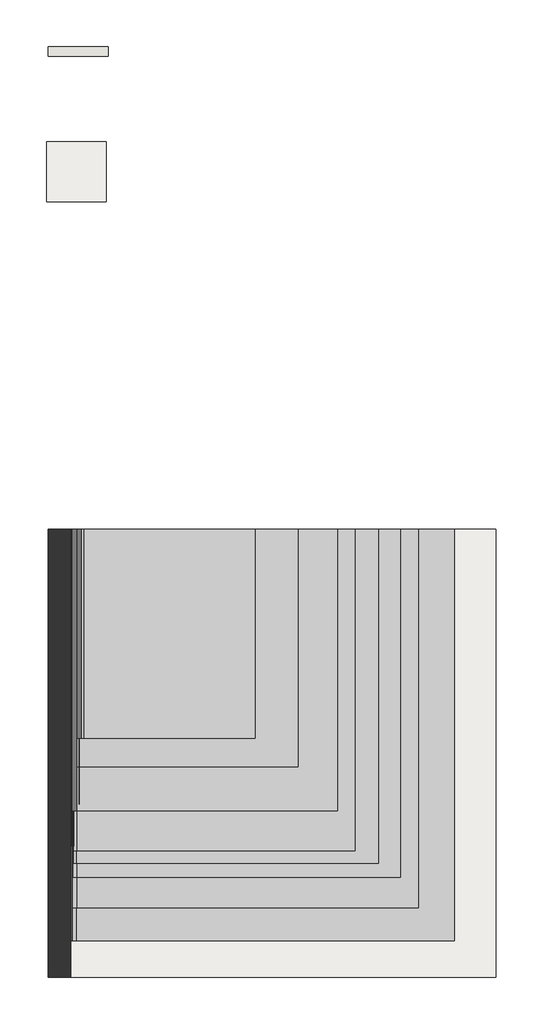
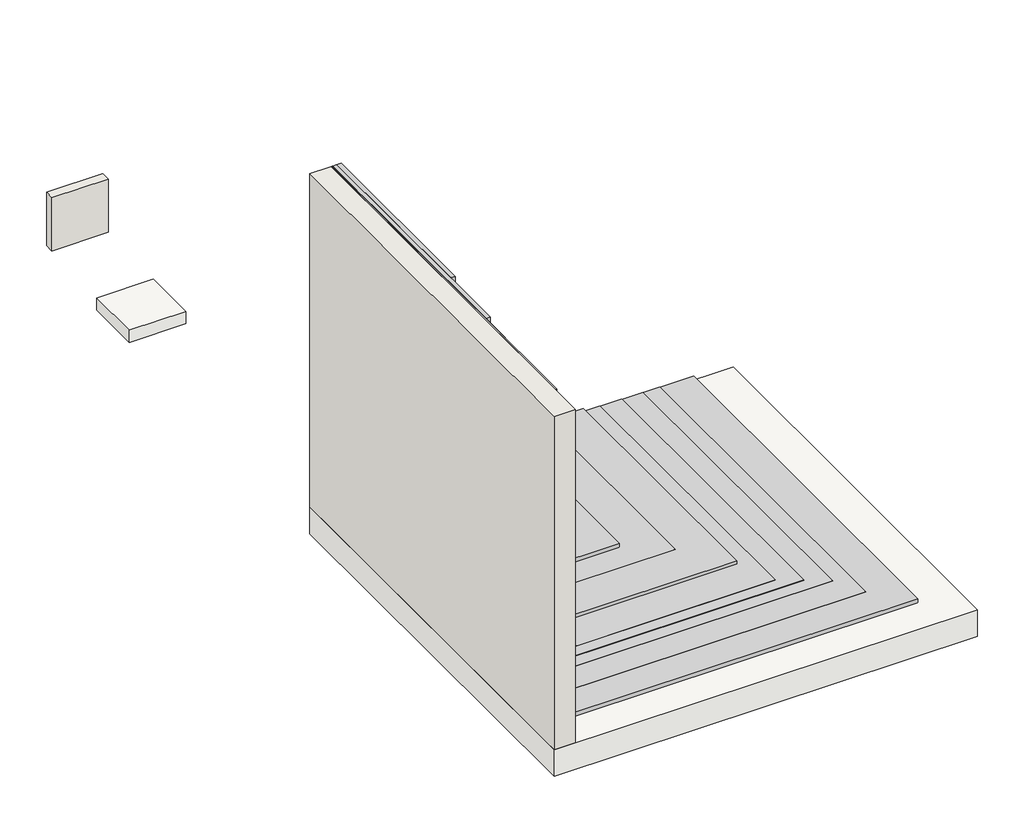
# One storey: 2 slabs, 2 walls, 1 proxy.
"""IFC4 building model written with IfcOpenShell, lengths in millimetres."""

import ifcopenshell
import ifcopenshell.guid

model = None  # the IFC model being written
_history = None  # IfcOwnerHistory: only IFC2X3 demands one
_inside = {}  # id of a spatial element -> (the spatial element, [elements in it])
_under = {}  # id of a project, library or spatial element -> (it, [spatial elements below it])
_declared = {}  # id of a project -> (the project, [libraries it declares])
_typed = {}  # id of a type object -> (the type object, [elements of that type])
_made_of = {}  # id of a material, layer set ... -> (it, [elements and type objects made of it])


def new_model(schema):
    """Start an empty IFC model of exactly this schema.

    Asked for "IFC4X3", IfcOpenShell would pick the latest addendum, in which some entities
    have other attributes; the version numbers below select the first issue.
    IFC2X3 requires an IfcOwnerHistory on every rooted entity: one is made here for all.
    """
    global model, _history
    if schema == "IFC4X3":
        model = ifcopenshell.file(schema_version=(4, 3, 0, 0))
    else:
        model = ifcopenshell.file(schema=schema)
    _inside.clear()
    _under.clear()
    _declared.clear()
    _typed.clear()
    _made_of.clear()
    _history = None
    if model.schema == "IFC2X3":
        org = make("IfcOrganization", Name="unknown")
        user = make(
            "IfcPersonAndOrganization",
            ThePerson=make("IfcPerson", FamilyName="unknown"),
            TheOrganization=org,
        )
        app = make(
            "IfcApplication",
            ApplicationDeveloper=org,
            Version="unknown",
            ApplicationFullName="unknown",
            ApplicationIdentifier="unknown",
        )
        _history = make(
            "IfcOwnerHistory",
            OwningUser=user,
            OwningApplication=app,
            ChangeAction="ADDED",
            CreationDate=0,
        )
    return model


def make(cls, **values):
    """One entity of the class cls with the attributes given. An attribute that is None is left unset."""
    return model.create_entity(
        cls, **{name: value for name, value in values.items() if value is not None}
    )


def rooted(cls, **values):
    """An entity with a GlobalId (a new one), such as an element, a storey or a relation."""
    return make(cls, GlobalId=ifcopenshell.guid.new(), OwnerHistory=_history, **values)


def si_unit(unit_type, name, prefix=None):
    """IfcSIUnit, for example si_unit("LENGTHUNIT", "METRE", prefix="MILLI")."""
    return make("IfcSIUnit", UnitType=unit_type, Prefix=prefix, Name=name)


def assignment(units):
    """IfcUnitAssignment: the units of a project."""
    return None if units is None else make("IfcUnitAssignment", Units=units)


def point(xyz):
    """IfcCartesianPoint."""
    return None if xyz is None else make("IfcCartesianPoint", Coordinates=xyz)


def direction(xyz):
    """IfcDirection."""
    return None if xyz is None else make("IfcDirection", DirectionRatios=xyz)


def frame(location, z_axis=None, x_axis=None):
    """IfcAxis2Placement3D, a coordinate frame: its origin and axes. An axis left out is left unset."""
    return make(
        "IfcAxis2Placement3D",
        Location=point(location),
        Axis=direction(z_axis),
        RefDirection=direction(x_axis),
    )


def frame_2d(location, x_axis=None):
    """IfcAxis2Placement2D, a coordinate frame in the plane: its origin and x axis."""
    return make(
        "IfcAxis2Placement2D", Location=point(location), RefDirection=direction(x_axis)
    )


def origin():
    """The frame at (0, 0, 0) with its axes left unset."""
    return frame((0.0, 0.0, 0.0))


def place(relative_to, where):
    """IfcLocalPlacement: puts the frame where relative to a parent placement (None: the world)."""
    return make(
        "IfcLocalPlacement", PlacementRelTo=relative_to, RelativePlacement=where
    )


def context(
    kind, dimensions, precision=None, world=None, true_north=None, identifier=None
):
    """IfcGeometricRepresentationContext, for example the 3D "Model" context."""
    return make(
        "IfcGeometricRepresentationContext",
        ContextIdentifier=identifier,
        ContextType=kind,
        CoordinateSpaceDimension=dimensions,
        Precision=precision,
        WorldCoordinateSystem=world,
        TrueNorth=true_north,
    )


def project(units=None, contexts=None):
    """IfcProject with its units and contexts."""
    return rooted(
        "IfcProject",
        Name="project",
        RepresentationContexts=contexts,
        UnitsInContext=assignment(units),
    )


def spatial(cls, under=None, at=None, **own):
    """A site, building, storey or space (cls), placed at a placement, below another one or the project."""
    s = rooted(cls, ObjectPlacement=at, **own)
    if under is not None:
        _under.setdefault(under.id(), (under, []))[1].append(s)
    return s


def polyline(points):
    """IfcPolyline through the points."""
    return make("IfcPolyline", Points=[point(p) for p in points])


def circle_curve(where, radius):
    """IfcCircle in the frame where."""
    return make("IfcCircle", Position=where, Radius=radius)


def trimmed(basis, trim1, trim2, sense, master):
    """IfcTrimmedCurve: the piece of a basis curve between two trims."""
    return make(
        "IfcTrimmedCurve",
        BasisCurve=basis,
        Trim1=trim1,
        Trim2=trim2,
        SenseAgreement=sense,
        MasterRepresentation=master,
    )


def segment(curve, same_sense, transition):
    """IfcCompositeCurveSegment."""
    return make(
        "IfcCompositeCurveSegment",
        Transition=transition,
        SameSense=same_sense,
        ParentCurve=curve,
    )


def composite_curve(segments, self_intersect=None):
    """IfcCompositeCurve: segments joined end to end."""
    return make("IfcCompositeCurve", Segments=segments, SelfIntersect=self_intersect)


def outline(outer, holes=None, kind="AREA"):
    """IfcArbitraryClosedProfileDef: a profile drawn as a closed curve; with holes, ...WithVoids."""
    if holes is None:
        return make("IfcArbitraryClosedProfileDef", ProfileType=kind, OuterCurve=outer)
    return make(
        "IfcArbitraryProfileDefWithVoids",
        ProfileType=kind,
        OuterCurve=outer,
        InnerCurves=holes,
    )


def extrude(swept, where, along, depth):
    """IfcExtrudedAreaSolid: the profile swept, set in the frame where, extruded along a direction by depth."""
    return make(
        "IfcExtrudedAreaSolid",
        SweptArea=swept,
        Position=where,
        ExtrudedDirection=direction(along),
        Depth=depth,
    )


def shape(context_of_items, identifier, shape_type, items):
    """IfcShapeRepresentation: the items that make up one representation, for example the "Body"."""
    return make(
        "IfcShapeRepresentation",
        ContextOfItems=context_of_items,
        RepresentationIdentifier=identifier,
        RepresentationType=shape_type,
        Items=items,
    )


def source(mapping_origin, context_of_items, identifier, shape_type, items):
    """IfcRepresentationMap: a shape defined once, which mapped items show again and again."""
    return make(
        "IfcRepresentationMap",
        MappingOrigin=mapping_origin,
        MappedRepresentation=shape(context_of_items, identifier, shape_type, items),
    )


def transform(
    local_origin,
    x_axis=None,
    y_axis=None,
    z_axis=None,
    scale=None,
    scale2=None,
    scale3=None,
    uniform=True,
):
    """IfcCartesianTransformationOperator3D, or its non-uniform kind. x_axis, y_axis, z_axis: its Axis1, 2, 3."""
    if uniform:
        return make(
            "IfcCartesianTransformationOperator3D",
            Axis1=direction(x_axis),
            Axis2=direction(y_axis),
            LocalOrigin=point(local_origin),
            Scale=scale,
            Axis3=direction(z_axis),
        )
    return make(
        "IfcCartesianTransformationOperator3DnonUniform",
        Axis1=direction(x_axis),
        Axis2=direction(y_axis),
        LocalOrigin=point(local_origin),
        Scale=scale,
        Axis3=direction(z_axis),
        Scale2=scale2,
        Scale3=scale3,
    )


def mapped(mapping_source, mapping_target):
    """IfcMappedItem: shows the shape of a source again, moved by a transform."""
    return make(
        "IfcMappedItem", MappingSource=mapping_source, MappingTarget=mapping_target
    )


def made_of(thing, what):
    """Note that an element or type object is made of a material, layer set ...; save() writes the relation."""
    if what is not None:
        _made_of.setdefault(what.id(), (what, []))[1].append(thing)
    return thing


def element(
    cls,
    number,
    at=None,
    inside=None,
    cuts=None,
    type_object=None,
    material=None,
    context=None,
    identifier="Body",
    shape_type=None,
    held_by="IfcProductDefinitionShape",
    body=None,
    shapes=None,
    **own,
):
    """One element of the class cls, such as IfcWall. Its Tag is "e" and its number.

    at: its placement. inside: the storey or other place that contains it. cuts: it is an
    opening in that element (IfcRelVoidsElement). A single representation is given by context,
    identifier, shape_type and body (its items); several are given by shapes. held_by: the class
    of the entity that holds the representations. save() writes the other relations.
    """
    e = rooted(cls, Tag="e%d" % number, ObjectPlacement=at, **own)
    if body is not None:
        shapes = [shape(context, identifier, shape_type, body)]
    if shapes is not None:
        e.Representation = make(held_by, Representations=shapes)
    if inside is not None:
        _inside.setdefault(inside.id(), (inside, []))[1].append(e)
    if cuts is not None:
        rooted(
            "IfcRelVoidsElement", RelatingBuildingElement=cuts, RelatedOpeningElement=e
        )
    if type_object is not None:
        _typed.setdefault(type_object.id(), (type_object, []))[1].append(e)
    return made_of(e, material)


def aggregate(whole, parts):
    """IfcRelAggregates: a whole, such as a stair, and the parts it consists of."""
    return rooted("IfcRelAggregates", RelatingObject=whole, RelatedObjects=parts)


def save(model, path):
    """Write the relations noted so far, then the file.

    IfcRelAggregates (storeys below a building ...), IfcRelContainedInSpatialStructure (elements
    in a storey), IfcRelDefinesByType, IfcRelAssociatesMaterial and IfcRelDeclares: one each for
    every whole, place, type object, material and project.
    """
    for whole, parts in _under.values():
        aggregate(whole, parts)
    for where, things in _inside.values():
        rooted(
            "IfcRelContainedInSpatialStructure",
            RelatedElements=things,
            RelatingStructure=where,
        )
    for kind, things in _typed.values():
        rooted("IfcRelDefinesByType", RelatedObjects=things, RelatingType=kind)
    for what, things in _made_of.values():
        rooted("IfcRelAssociatesMaterial", RelatedObjects=things, RelatingMaterial=what)
    for by, libraries in _declared.values():
        rooted("IfcRelDeclares", RelatingContext=by, RelatedDefinitions=libraries)
    model.write(path)


def generic_models_7824ece7(model_context):
    return source(origin(), model_context, "Body", "SweptSolid", [
        extrude(outline(composite_curve([segment(trimmed(circle_curve(frame_2d((57.476202, -311.9704105)), 24.0), [point((56.7394814, -335.9591004))], [point((33.5018705, -313.0801074))], False, "CARTESIAN"), True, "CONTINUOUS"), segment(polyline([(33.5018705, -313.0801074), (33.5018705, 1553.7831106), (34.5018705, 1553.7831106), (34.5018705, -313.0567301)]), True, "CONTINUOUS"), segment(trimmed(circle_curve(frame_2d((57.476202, -311.9704105)), 23.0), [point((34.5018705, -313.0567301))], [point((56.7549967, -334.9591004))], True, "CARTESIAN"), True, "CONTINUOUS"), segment(polyline([(56.7549967, -334.9591004), (162.5018705, -334.9591004), (162.5018705, -335.9591004), (56.7394814, -335.9591004)]), True, "CONTINUOUS")], self_intersect=False)), frame((0.0, -2004.9615793, 0.0), z_axis=(0.0, 1.0, 0.0), x_axis=(0.0, 0.0, 1.0)), (0.0, 0.0, 1.0), 2150.8315988),
        extrude(outline(composite_curve([segment(trimmed(circle_curve(frame_2d((57.476202, -311.9704105)), 29.0), [point((56.6663512, -340.9591004))], [point((28.5018705, -313.1902924))], False, "CARTESIAN"), True, "CONTINUOUS"), segment(polyline([(28.5018705, -313.1902924), (28.5018705, 1858.7456845), (29.5018705, 1858.7456845), (29.5018705, -313.1690659)]), True, "CONTINUOUS"), segment(trimmed(circle_curve(frame_2d((57.476202, -311.9704105)), 28.0), [point((29.5018705, -313.1690659))], [point((56.6804394, -339.9591004))], True, "CARTESIAN"), True, "CONTINUOUS"), segment(polyline([(56.6804394, -339.9591004), (166.5018705, -339.9591004), (166.5018705, -340.9591004), (56.6663512, -340.9591004)]), True, "CONTINUOUS")], self_intersect=False)), frame((0.0, -2183.8835924, 0.0), z_axis=(0.0, 1.0, 0.0), x_axis=(0.0, 0.0, 1.0)), (0.0, 0.0, 1.0), 2329.7536119),
        extrude(outline(composite_curve([segment(polyline([(58.9105863, -310.9591004), (2497.4652065, -310.9591004), (2497.4652065, -340.9704105), (167.5018705, -340.9704105), (167.5018705, -339.5448868), (163.5018705, -335.5448868), (163.5018705, -333.9591004), (56.7549967, -333.9591004), (56.7549967, -334.9591004)]), True, "CONTINUOUS"), segment(trimmed(circle_curve(frame_2d((57.476202, -311.9704105)), 23.0), [point((56.7549967, -334.9591004))], [point((34.5018705, -313.0567301))], False, "CARTESIAN"), True, "CONTINUOUS"), segment(polyline([(34.5018705, -313.0567301), (34.5018705, 1436.6324388), (58.9105863, 1436.6324388), (58.9105863, -310.9591004)]), True, "CONTINUOUS")], self_intersect=False)), frame((0.0, -1739.2820095, 0.0), z_axis=(0.0, 1.0, 0.0), x_axis=(0.0, 0.0, 1.0)), (0.0, 0.0, 1.0), 1885.152029),
        extrude(outline(polyline([(166.5018705, -339.9591004), (162.5018705, -335.9591004), (162.5018705, -334.9591004), (56.7549967, -334.9591004), (56.7549967, -333.9591004), (163.5018705, -333.9591004), (163.5018705, -335.5448868), (167.5018705, -339.5448868), (167.5018705, -340.9704105), (2497.476202, -340.9704105), (2497.476202, -341.9704105), (166.5018705, -341.9704105), (166.5018705, -339.9591004)])), frame((0.0, -1975.1610544, 0.0), z_axis=(0.0, 1.0, 0.0), x_axis=(0.0, 0.0, 1.0)), (0.0, 0.0, 1.0), 2121.0310739),
        extrude(outline(polyline([(-351.9704105, 145.8700195), (-341.9704105, 145.8700195), (-341.9704105, -2608.4880222), (-351.9704105, -2608.4880222), (-351.9704105, 145.8700195)])), frame((0.0, 0.0, -2.523798), z_axis=(0.0, 0.0, 1.0), x_axis=(1.0, 0.0, 0.0)), (0.0, 0.0, 1.0), 2500.0),
        extrude(outline(composite_curve([segment(polyline([(-311.9704105, 27.476202), (2218.0295895, 27.476202), (2218.0295895, -2.523798), (-341.9704105, -2.523798), (-341.9704105, 57.476202)]), True, "CONTINUOUS"), segment(trimmed(circle_curve(frame_2d((-311.9704105, 57.476202)), 30.0), [point((-341.9704105, 57.476202))], [point((-311.9704105, 27.476202))], True, "CARTESIAN"), True, "CONTINUOUS")], self_intersect=False)), frame((0.0, 145.8700195, 0.0), z_axis=(0.0, -1.0, 0.0), x_axis=(1.0, 0.0, 0.0)), (0.0, 0.0, 1.0), 2754.3580417),
        extrude(outline(composite_curve([segment(polyline([(56.6663512, -340.9591004), (166.5018705, -340.9591004), (166.5018705, -341.9704105), (57.476202, -341.9704105)]), True, "CONTINUOUS"), segment(trimmed(circle_curve(frame_2d((57.476202, -311.9704105)), 30.0), [point((57.476202, -341.9704105))], [point((27.476202, -311.9704105))], False, "CARTESIAN"), True, "CONTINUOUS"), segment(polyline([(27.476202, -311.9704105), (27.476202, 1978.0295895), (28.5018705, 1978.0295895), (28.5018705, -313.1902924)]), True, "CONTINUOUS"), segment(trimmed(circle_curve(frame_2d((57.476202, -311.9704105)), 29.0), [point((28.5018705, -313.1902924))], [point((56.6663512, -340.9591004))], True, "CARTESIAN"), True, "CONTINUOUS")], self_intersect=False)), frame((0.0, -2385.98401, 0.0), z_axis=(0.0, 1.0, 0.0), x_axis=(0.0, 0.0, 1.0)), (0.0, 0.0, 1.0), 2531.8540295),
        extrude(outline(composite_curve([segment(polyline([(56.7394814, -335.9591004), (162.5018705, -335.9591004), (166.5018705, -339.9591004), (56.6804394, -339.9591004)]), True, "CONTINUOUS"), segment(trimmed(circle_curve(frame_2d((57.476202, -311.9704105)), 28.0), [point((56.6804394, -339.9591004))], [point((29.5018705, -313.1690659))], False, "CARTESIAN"), True, "CONTINUOUS"), segment(polyline([(29.5018705, -313.1690659), (29.5018705, 1708.8493946), (33.5018705, 1708.8493946), (33.5018705, -313.0801074)]), True, "CONTINUOUS"), segment(trimmed(circle_curve(frame_2d((57.476202, -311.9704105)), 24.0), [point((33.5018705, -313.0801074))], [point((56.7394814, -335.9591004))], True, "CARTESIAN"), True, "CONTINUOUS")], self_intersect=False)), frame((0.0, -2091.0492051, 0.0), z_axis=(0.0, 1.0, 0.0), x_axis=(0.0, 0.0, 1.0)), (0.0, 0.0, 1.0), 2236.9192246),
        extrude(outline(polyline([(59.9105863, -310.9591004), (59.9105863, 881.9874342), (89.9105863, 881.9874342), (89.9105863, -262.4331394), (77.3105863, -262.4331394), (77.3105863, -280.9591004), (89.9105863, -280.9591004), (2498.8849178, -280.9591004), (2498.8849178, -310.9591004), (59.9105863, -310.9591004)])), frame((0.0, -1254.1299805, 0.0), z_axis=(0.0, 1.0, 0.0), x_axis=(0.0, 0.0, 1.0)), (0.0, 0.0, 1.0), 1400.0),
        extrude(outline(polyline([(-296.4591004, 145.8700195), (-295.4591004, 145.8700195), (-295.4591004, -1694.1090661), (-296.4591004, -1694.1090661), (-296.4591004, 145.8700195)])), frame((0.0, 0.0, 89.9105863), z_axis=(0.0, 0.0, 1.0), x_axis=(1.0, 0.0, 0.0)), (0.0, 0.0, 1.0), 400.0),
        extrude(outline(polyline([(1170.3053101, 145.8700195), (1170.3053101, -1443.4626514), (-310.9591004, -1443.4626514), (-310.9591004, 145.8700195), (1170.3053101, 145.8700195)])), frame((0.0, 0.0, 58.9105863), z_axis=(0.0, 0.0, 1.0), x_axis=(1.0, 0.0, 0.0)), (0.0, 0.0, 1.0), 1.0),
        extrude(outline(polyline([(-262.4331394, 145.8700195), (-262.4331394, -1254.1299805), (-280.9591004, -1254.1299805), (-280.9591004, 145.8700195), (-262.4331394, 145.8700195)])), frame((0.0, 0.0, 77.3105863), z_axis=(0.0, 0.0, 1.0), x_axis=(1.0, 0.0, 0.0)), (0.0, 0.0, 1.0), 12.6),
    ])


model = new_model("IFC4")

# Units and contexts
model_context = context("Model", 3, world=origin())
ifc_project = project(units=[si_unit("LENGTHUNIT", "METRE", prefix="MILLI")], contexts=[model_context])

# Site, building, storey
site = spatial("IfcSite", under=ifc_project)
building = spatial("IfcBuilding", under=site)
storey = spatial("IfcBuildingStorey", under=building, Name="ARQ Térreo", Elevation=-2.523798)

# Proxy
placement = place(None, origin())
generic_models_shape = generic_models_7824ece7(model_context)
element("IfcBuildingElementProxy", 1, Name="IMPER:IMPER:433934 : IMPER:IMPER:433934", ObjectType="IMPER:IMPER:433934 : IMPER:IMPER:433934", at=placement, inside=storey, context=model_context, shape_type="MappedRepresentation", body=[
    mapped(generic_models_shape, transform((0.0, 0.0, 0.0), x_axis=(1.0, 0.0, 0.0), y_axis=(0.0, 1.0, 0.0), z_axis=(0.0, 0.0, 1.0))),
])

# Slabs
element("IfcSlab", 2, ObjectType="IMPH_T4AA", at=placement, inside=storey, context=model_context, shape_type="SweptSolid", body=[
    extrude(outline(polyline([(-514.5300247, 2740.9296337), (-114.5300247, 2740.9296337), (-114.5300247, 2340.9296337), (-514.5300247, 2340.9296337), (-514.5300247, 2740.9296337)])), frame((0.0, 0.0, -94.523798), z_axis=(0.0, 0.0, 1.0), x_axis=(1.0, 0.0, 0.0)), (0.0, 0.0, 1.0), 92.0),
])
element("IfcSlab", 3, ObjectType="Piso:LAJE CONCRETO", at=placement, inside=storey, context=model_context, shape_type="SweptSolid", body=[
    extrude(outline(polyline([(-501.9704105, 145.8700195), (2498.0295895, 145.8700195), (2498.0295895, -2854.1299805), (-501.9704105, -2854.1299805), (-501.9704105, 145.8700195)])), frame((0.0, 0.0, -202.523798), z_axis=(0.0, 0.0, 1.0), x_axis=(1.0, 0.0, 0.0)), (0.0, 0.0, 1.0), 200.0),
])

# Walls
element("IfcWall", 4, ObjectType="Parede básica:Parede Concreto", at=placement, inside=storey, context=model_context, shape_type="SweptSolid", body=[
    extrude(outline(polyline([(-501.9704105, -2854.1299805), (-501.9704105, 145.8700195), (-351.9704105, 145.8700195), (-351.9704105, -2854.1299805), (-501.9704105, -2854.1299805)])), frame((0.0, 0.0, -2.523798), z_axis=(0.0, 0.0, 1.0), x_axis=(1.0, 0.0, 0.0)), (0.0, 0.0, 1.0), 2500.0),
])
element("IfcWall", 5, ObjectType="IMPV_VITKOTE ELASTIC", at=placement, inside=storey, context=model_context, shape_type="SweptSolid", body=[
    extrude(outline(polyline([(-101.9704105, 3312.8700195), (-501.9704105, 3312.8700195), (-501.9704105, 3378.8700195), (-101.9704105, 3378.8700195), (-101.9704105, 3312.8700195)])), frame((0.0, 0.0, -2.523798), z_axis=(0.0, 0.0, 1.0), x_axis=(1.0, 0.0, 0.0)), (0.0, 0.0, 1.0), 400.0),
])

save(model, "model.ifc")
